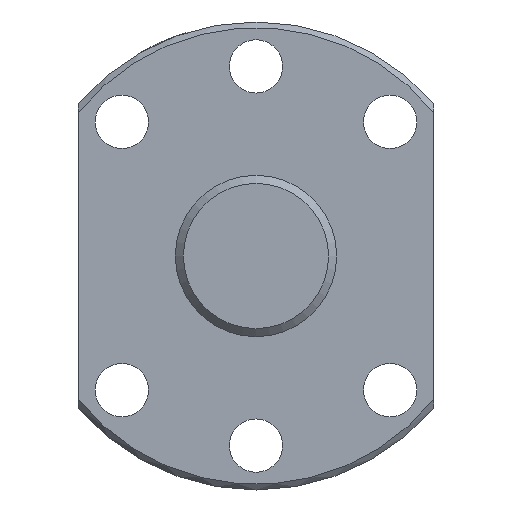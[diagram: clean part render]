
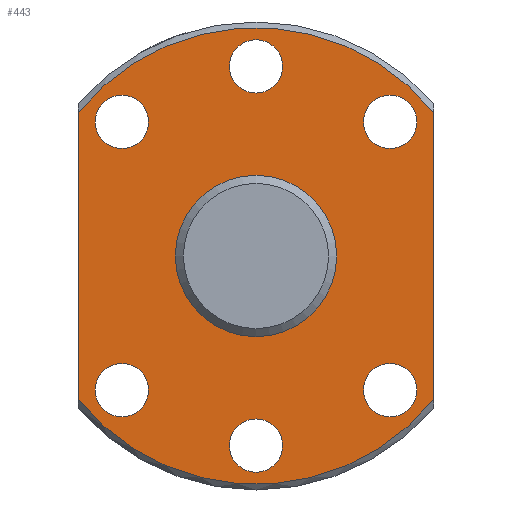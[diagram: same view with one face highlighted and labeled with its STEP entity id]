
A CAD part, left-side view. The second image highlights one B-rep face of the part: STEP entity #443.
In plain terms, the highlighted planar face has unit normal (-1, 0, 0).
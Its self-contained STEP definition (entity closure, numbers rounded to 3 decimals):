
#22=LINE('',#777,#30);
#23=LINE('',#778,#31);
#30=VECTOR('',#607,1000.);
#31=VECTOR('',#608,1000.);
#105=ORIENTED_EDGE('',*,*,#199,.F.);
#106=ORIENTED_EDGE('',*,*,#200,.F.);
#107=ORIENTED_EDGE('',*,*,#186,.F.);
#108=ORIENTED_EDGE('',*,*,#201,.F.);
#109=ORIENTED_EDGE('',*,*,#202,.T.);
#110=ORIENTED_EDGE('',*,*,#203,.T.);
#111=ORIENTED_EDGE('',*,*,#182,.F.);
#112=ORIENTED_EDGE('',*,*,#204,.T.);
#113=ORIENTED_EDGE('',*,*,#205,.T.);
#114=ORIENTED_EDGE('',*,*,#206,.T.);
#115=ORIENTED_EDGE('',*,*,#207,.T.);
#182=EDGE_CURVE('',#232,#232,#274,.F.);
#186=EDGE_CURVE('',#236,#237,#276,.T.);
#199=EDGE_CURVE('',#247,#248,#281,.T.);
#200=EDGE_CURVE('',#237,#247,#22,.T.);
#201=EDGE_CURVE('',#248,#236,#23,.T.);
#202=EDGE_CURVE('',#249,#249,#282,.T.);
#203=EDGE_CURVE('',#250,#250,#283,.T.);
#204=EDGE_CURVE('',#251,#251,#284,.T.);
#205=EDGE_CURVE('',#252,#252,#285,.T.);
#206=EDGE_CURVE('',#253,#253,#286,.T.);
#207=EDGE_CURVE('',#254,#254,#287,.T.);
#232=VERTEX_POINT('',#706);
#236=VERTEX_POINT('',#727);
#237=VERTEX_POINT('',#729);
#247=VERTEX_POINT('',#775);
#248=VERTEX_POINT('',#776);
#249=VERTEX_POINT('',#780);
#250=VERTEX_POINT('',#782);
#251=VERTEX_POINT('',#784);
#252=VERTEX_POINT('',#786);
#253=VERTEX_POINT('',#788);
#254=VERTEX_POINT('',#790);
#274=CIRCLE('',#500,10.);
#276=CIRCLE('',#503,28.3);
#281=CIRCLE('',#512,28.3);
#282=CIRCLE('',#513,3.3);
#283=CIRCLE('',#514,3.3);
#284=CIRCLE('',#515,3.3);
#285=CIRCLE('',#516,3.3);
#286=CIRCLE('',#517,3.3);
#287=CIRCLE('',#518,3.3);
#317=EDGE_LOOP('',(#105,#106,#107,#108));
#318=EDGE_LOOP('',(#109));
#319=EDGE_LOOP('',(#110));
#320=EDGE_LOOP('',(#111));
#321=EDGE_LOOP('',(#112));
#322=EDGE_LOOP('',(#113));
#323=EDGE_LOOP('',(#114));
#324=EDGE_LOOP('',(#115));
#379=FACE_BOUND('',#317,.T.);
#380=FACE_BOUND('',#318,.T.);
#381=FACE_BOUND('',#319,.T.);
#382=FACE_BOUND('',#320,.T.);
#383=FACE_BOUND('',#321,.T.);
#384=FACE_BOUND('',#322,.T.);
#385=FACE_BOUND('',#323,.T.);
#386=FACE_BOUND('',#324,.T.);
#427=PLANE('',#511);
#443=ADVANCED_FACE('',(#379,#380,#381,#382,#383,#384,#385,#386),#427,.F.);
#500=AXIS2_PLACEMENT_3D('',#705,#577,#578);
#503=AXIS2_PLACEMENT_3D('',#728,#583,#584);
#511=AXIS2_PLACEMENT_3D('',#773,#603,#604);
#512=AXIS2_PLACEMENT_3D('',#774,#605,#606);
#513=AXIS2_PLACEMENT_3D('',#779,#609,#610);
#514=AXIS2_PLACEMENT_3D('',#781,#611,#612);
#515=AXIS2_PLACEMENT_3D('',#783,#613,#614);
#516=AXIS2_PLACEMENT_3D('',#785,#615,#616);
#517=AXIS2_PLACEMENT_3D('',#787,#617,#618);
#518=AXIS2_PLACEMENT_3D('',#789,#619,#620);
#577=DIRECTION('',(1.,0.,0.));
#578=DIRECTION('',(0.,0.,-1.));
#583=DIRECTION('',(1.,0.,0.));
#584=DIRECTION('',(0.,0.,-1.));
#603=DIRECTION('',(1.,0.,0.));
#604=DIRECTION('',(0.,0.,-1.));
#605=DIRECTION('',(1.,0.,0.));
#606=DIRECTION('',(0.,0.,-1.));
#607=DIRECTION('',(0.,1.,0.));
#608=DIRECTION('',(0.,-1.,0.));
#609=DIRECTION('',(1.,0.,0.));
#610=DIRECTION('',(0.,0.,-1.));
#611=DIRECTION('',(1.,0.,0.));
#612=DIRECTION('',(0.,0.,-1.));
#613=DIRECTION('',(1.,0.,0.));
#614=DIRECTION('',(0.,0.,-1.));
#615=DIRECTION('',(1.,0.,0.));
#616=DIRECTION('',(0.,0.,-1.));
#617=DIRECTION('',(1.,0.,0.));
#618=DIRECTION('',(0.,0.,-1.));
#619=DIRECTION('',(1.,0.,0.));
#620=DIRECTION('',(0.,0.,-1.));
#705=CARTESIAN_POINT('',(0.,0.,0.));
#706=CARTESIAN_POINT('',(0.,0.,-10.));
#727=CARTESIAN_POINT('',(0.,-17.801,22.));
#728=CARTESIAN_POINT('',(0.,0.,0.));
#729=CARTESIAN_POINT('',(0.,-17.801,-22.));
#773=CARTESIAN_POINT('',(0.,0.,0.));
#774=CARTESIAN_POINT('',(0.,0.,0.));
#775=CARTESIAN_POINT('',(0.,17.801,-22.));
#776=CARTESIAN_POINT('',(0.,17.801,22.));
#777=CARTESIAN_POINT('',(0.,-34.8,-22.));
#778=CARTESIAN_POINT('',(0.,34.8,22.));
#779=CARTESIAN_POINT('',(0.,23.5,0.));
#780=CARTESIAN_POINT('',(0.,23.5,-3.3));
#781=CARTESIAN_POINT('',(0.,-23.5,0.));
#782=CARTESIAN_POINT('',(0.,-23.5,-3.3));
#783=CARTESIAN_POINT('',(0.,-16.617,16.617));
#784=CARTESIAN_POINT('',(0.,-16.617,13.317));
#785=CARTESIAN_POINT('',(0.,16.617,-16.617));
#786=CARTESIAN_POINT('',(0.,16.617,-19.917));
#787=CARTESIAN_POINT('',(0.,-16.617,-16.617));
#788=CARTESIAN_POINT('',(0.,-16.617,-19.917));
#789=CARTESIAN_POINT('',(0.,16.617,16.617));
#790=CARTESIAN_POINT('',(0.,16.617,13.317));
